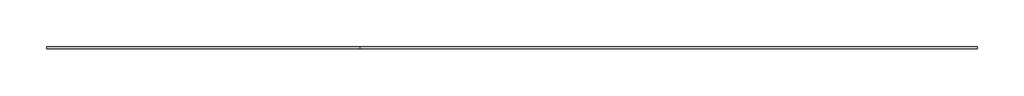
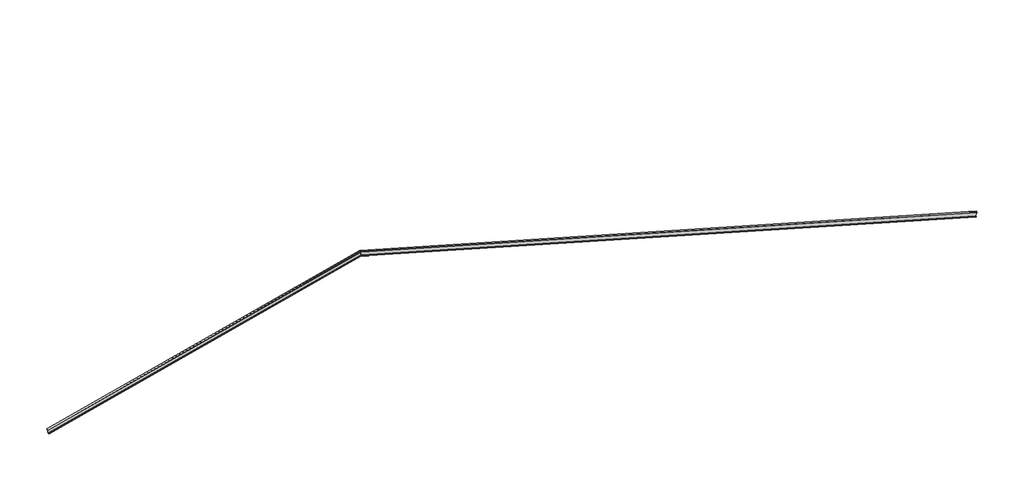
# One storey: 2 beams.
"""IFC4 building model written with IfcOpenShell, lengths in millimetres."""

from ifc_helpers import new_model, si_unit, frame, origin, place, context, project, spatial, polyline, circle_curve, ellipse_curve, element, save
from ifc_brep_helpers import plane_surface, revolved_surface, advanced_brep

model = new_model("IFC4")

# Units and contexts
model_context = context("Model", 3, world=origin())
ifc_project = project(units=[si_unit("LENGTHUNIT", "METRE", prefix="MILLI")], contexts=[model_context])

# Site, building, storey
site = spatial("IfcSite", under=ifc_project)
building = spatial("IfcBuilding", under=site)
storey = spatial("IfcBuildingStorey", under=building, Name="樓層 2", Elevation=4000.0)

# Beams
placement = place(None, origin())
element("IfcBeam", 1, ObjectType="UB-通用樑 : 305x165x40UB", at=placement, inside=storey, context=model_context, shape_type="AdvancedBrep", body=[
    advanced_brep(
    [(-6557.8417513, -1165.9837992, -584.2902645), (-6555.3463468, -1165.9837992, -594.1803078), (-6555.3463468, -1330.9837992, -594.1803078), (-6557.8417513, -1330.9837992, -584.2902645), (-6557.8417513, -1260.3837992, -584.2902645), (-6560.019114, -1251.4837992, -575.6607169), (-6624.8996296, -1251.4837992, -318.5195909), (-6627.0769923, -1260.3837992, -309.8900433), (-6627.0769923, -1330.9837992, -309.8900433), (-6629.5723967, -1330.9837992, -300.0), (-6629.5723967, -1165.9837992, -300.0), (-6627.0769923, -1165.9837992, -309.8900433), (-6627.0769923, -1236.5837992, -309.8900433), (-6624.8996296, -1245.4837992, -318.5195909), (-6560.019114, -1245.4837992, -575.6607169), (-6557.8417513, -1236.5837992, -584.2902645), (14966.1103873, -1236.5837992, 4846.5217334), (14966.1103873, -1165.9837992, 4846.5217334), (14966.2414351, -1245.4837992, 4855.7337272), (14970.1463658, -1245.4837992, 5130.2304403), (14970.2774136, -1236.5837992, 5139.4424341), (14970.2774136, -1165.9837992, 5139.4424341), (14970.4276033, -1165.9837992, 5150.0), (14970.4276033, -1330.9837992, 5150.0), (14970.2774136, -1330.9837992, 5139.4424341), (14970.2774136, -1260.3837992, 5139.4424341), (14970.1463658, -1251.4837992, 5130.2304403), (14966.2414351, -1251.4837992, 4855.7337272), (14966.1103873, -1260.3837992, 4846.5217334), (14966.1103873, -1330.9837992, 4846.5217334), (14965.9601977, -1330.9837992, 4835.9641675), (14965.9601977, -1165.9837992, 4835.9641675)],
    [
        (0, 1),
        (1, 2),
        (2, 3),
        (3, 4),
        (4, 5, circle_curve(frame((-6560.019114, -1260.3837992, -575.6607169), z_axis=(0.9696120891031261, 0.0, 0.24464749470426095), x_axis=(0.0, -1.0, 0.0)), 8.9)),
        (5, 6),
        (6, 7, circle_curve(frame((-6624.8996296, -1260.3837992, -318.5195909), z_axis=(0.9696120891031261, 0.0, 0.24464749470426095), x_axis=(0.0, -1.0, 0.0)), 8.9)),
        (7, 8),
        (8, 9),
        (9, 10),
        (10, 11),
        (11, 12),
        (12, 13, circle_curve(frame((-6624.8996296, -1236.5837992, -318.5195909), z_axis=(0.9696120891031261, 0.0, 0.24464749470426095), x_axis=(0.0, -1.0, 0.0)), 8.9)),
        (13, 14),
        (14, 15, circle_curve(frame((-6560.019114, -1236.5837992, -575.6607169), z_axis=(0.9696120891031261, 0.0, 0.24464749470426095), x_axis=(0.0, -1.0, 0.0)), 8.9)),
        (15, 0),
        (16, 17),
        (17, 0),
        (15, 16),
        (18, 16, ellipse_curve(frame((14966.2414351, -1236.5837992, 4855.7337272), z_axis=(0.9998988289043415, 0.0, -0.014224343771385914), x_axis=(-0.014224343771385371, 0.0, -0.9998988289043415)), 9.2129258, 8.9)),
        (14, 18),
        (19, 18),
        (13, 19),
        (20, 19, ellipse_curve(frame((14970.1463658, -1236.5837992, 5130.2304403), z_axis=(0.9998988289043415, 0.0, -0.014224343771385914), x_axis=(-0.014224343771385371, 0.0, -0.9998988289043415)), 9.2129258, 8.9)),
        (12, 20),
        (21, 20),
        (11, 21),
        (22, 21),
        (10, 22),
        (23, 22),
        (9, 23),
        (24, 23),
        (8, 24),
        (25, 24),
        (7, 25),
        (26, 25, ellipse_curve(frame((14970.1463658, -1260.3837992, 5130.2304403), z_axis=(0.9998988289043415, 0.0, -0.014224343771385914), x_axis=(-0.014224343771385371, 0.0, -0.9998988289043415)), 9.2129258, 8.9)),
        (6, 26),
        (27, 26),
        (5, 27),
        (28, 27, ellipse_curve(frame((14966.2414351, -1260.3837992, 4855.7337272), z_axis=(0.9998988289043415, 0.0, -0.014224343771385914), x_axis=(-0.014224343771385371, 0.0, -0.9998988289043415)), 9.2129258, 8.9)),
        (4, 28),
        (29, 28),
        (3, 29),
        (30, 29),
        (2, 30),
        (31, 30),
        (1, 31),
        (17, 31),
    ],
    [
        plane_surface(frame((-6592.4593718, -1248.4837992, -447.0901539), z_axis=(-0.9696120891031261, 0.0, -0.24464749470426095), x_axis=(-0.24464749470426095, 0.0, 0.9696120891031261))),
        plane_surface(frame((15042.1582487, -1165.9837992, 4865.7097355), z_axis=(-0.24464749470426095, 0.0, 0.9696120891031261), x_axis=(-0.9696120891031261, 0.0, -0.24464749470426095))),
        revolved_surface(polyline([(-6560.019114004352, -1245.4837992, -575.6607169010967), (14968.549845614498, -1245.4837992, 4856.316173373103)]), (15039.980886, -1236.5837992, 4874.3392831), (-0.9696120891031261, 0.0, -0.24464749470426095)),
        plane_surface(frame((15039.980886, -1245.4837992, 4874.3392831), z_axis=(0.0, 1.0, 0.0), x_axis=(-0.9696120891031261, 0.0, -0.24464749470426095))),
        revolved_surface(polyline([(-6624.8996296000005, -1245.4837992, -318.51959089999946), (14972.454776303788, -1245.4837992, 5130.8128865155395)]), (14975.1003704, -1236.5837992, 5131.4804091), (-0.9696120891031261, 0.0, -0.24464749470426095)),
        plane_surface(frame((14972.9230077, -1236.5837992, 5140.1099567), z_axis=(0.24464749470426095, 0.0, -0.9696120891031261), x_axis=(-0.9696120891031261, 0.0, -0.24464749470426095))),
        plane_surface(frame((14972.9230077, -1165.9837992, 5140.1099567), z_axis=(0.0, 1.0, 0.0), x_axis=(-0.9696120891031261, 0.0, -0.24464749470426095))),
        plane_surface(frame((14970.4276033, -1165.9837992, 5150.0), z_axis=(-0.24464749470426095, 0.0, 0.9696120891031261), x_axis=(-0.9696120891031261, 0.0, -0.24464749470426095))),
        plane_surface(frame((14970.4276033, -1330.9837992, 5150.0), z_axis=(0.0, -1.0, 0.0), x_axis=(-0.9696120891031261, 0.0, -0.24464749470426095))),
        plane_surface(frame((14972.9230077, -1330.9837992, 5140.1099567), z_axis=(0.24464749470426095, 0.0, -0.9696120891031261), x_axis=(-0.9696120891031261, 0.0, -0.24464749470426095))),
        revolved_surface(polyline([(-6624.8996296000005, -1269.2837992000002, -318.51959089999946), (14972.454776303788, -1269.2837992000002, 5130.8128865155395)]), (14975.1003704, -1260.3837992, 5131.4804091), (-0.9696120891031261, 0.0, -0.24464749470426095)),
        plane_surface(frame((14975.1003704, -1251.4837992, 5131.4804091), z_axis=(0.0, -1.0, 0.0), x_axis=(-0.9696120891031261, 0.0, -0.24464749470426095))),
        revolved_surface(polyline([(-6560.019114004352, -1269.2837992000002, -575.6607169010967), (14968.549845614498, -1269.2837992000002, 4856.316173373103)]), (15039.980886, -1260.3837992, 4874.3392831), (-0.9696120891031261, 0.0, -0.24464749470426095)),
        plane_surface(frame((15042.1582487, -1260.3837992, 4865.7097355), z_axis=(-0.24464749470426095, 0.0, 0.9696120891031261), x_axis=(-0.9696120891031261, 0.0, -0.24464749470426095))),
        plane_surface(frame((15042.1582487, -1330.9837992, 4865.7097355), z_axis=(0.0, -1.0, 0.0), x_axis=(-0.9696120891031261, 0.0, -0.24464749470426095))),
        plane_surface(frame((15044.6536532, -1330.9837992, 4855.8196922), z_axis=(0.24464749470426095, 0.0, -0.9696120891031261), x_axis=(-0.9696120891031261, 0.0, -0.24464749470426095))),
        plane_surface(frame((15044.6536532, -1165.9837992, 4855.8196922), z_axis=(0.0, 1.0, 0.0), x_axis=(-0.9696120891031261, 0.0, -0.24464749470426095))),
        plane_surface(frame((14970.4276033, -1248.4837992, 5150.0), z_axis=(0.9998988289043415, 0.0, -0.014224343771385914), x_axis=(0.014224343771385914, 0.0, 0.9998988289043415))),
    ],
    [
        (0, [[1, 2, 3, 4, 5, 6, 7, 8, 9, 10, 11, 12, 13, 14, 15, 16]]),
        (1, [[17, 18, -16, 19]]),
        (2, [[20, -19, -15, 21]]),
        (3, [[22, -21, -14, 23]]),
        (4, [[24, -23, -13, 25]]),
        (5, [[26, -25, -12, 27]]),
        (6, [[28, -27, -11, 29]]),
        (7, [[30, -29, -10, 31]]),
        (8, [[32, -31, -9, 33]]),
        (9, [[34, -33, -8, 35]]),
        (10, [[36, -35, -7, 37]]),
        (11, [[38, -37, -6, 39]]),
        (12, [[40, -39, -5, 41]]),
        (13, [[42, -41, -4, 43]]),
        (14, [[44, -43, -3, 45]]),
        (15, [[46, -45, -2, 47]]),
        (16, [[48, -47, -1, -18]]),
        (17, [[-17, -20, -22, -24, -26, -28, -30, -32, -34, -36, -38, -40, -42, -44, -46, -48]]),
    ],
),
])
element("IfcBeam", 2, ObjectType="UB-通用樑 : 305x165x40UB", at=placement, inside=storey, context=model_context, shape_type="AdvancedBrep", body=[
    advanced_brep(
    [(57351.333792, -1165.9837992, -7140.1347862), (57351.333792, -1236.5837992, -7140.1347862), (57353.755748, -1245.4837992, -7131.5706676), (57425.9245963, -1245.4837992, -6876.379176), (57428.3465524, -1236.5837992, -6867.8150574), (57428.3465524, -1165.9837992, -6867.8150574), (57431.1222773, -1165.9837992, -6858.0), (57431.1222773, -1330.9837992, -6858.0), (57428.3465524, -1330.9837992, -6867.8150574), (57428.3465524, -1260.3837992, -6867.8150574), (57425.9245963, -1251.4837992, -6876.379176), (57353.755748, -1251.4837992, -7131.5706676), (57351.333792, -1260.3837992, -7140.1347862), (57351.333792, -1330.9837992, -7140.1347862), (57348.558067, -1330.9837992, -7149.9498436), (57348.558067, -1165.9837992, -7149.9498436), (14966.1103873, -1165.9837992, 4846.5217334), (14966.1103873, -1236.5837992, 4846.5217334), (14966.2414351, -1245.4837992, 4855.7337272), (14970.1463658, -1245.4837992, 5130.2304403), (14970.2774136, -1236.5837992, 5139.4424341), (14970.2774136, -1165.9837992, 5139.4424341), (14970.4276033, -1165.9837992, 5150.0), (14970.4276033, -1330.9837992, 5150.0), (14970.2774136, -1330.9837992, 5139.4424341), (14970.2774136, -1260.3837992, 5139.4424341), (14970.1463658, -1251.4837992, 5130.2304403), (14966.2414351, -1251.4837992, 4855.7337272), (14966.1103873, -1260.3837992, 4846.5217334), (14966.1103873, -1330.9837992, 4846.5217334), (14965.9601977, -1330.9837992, 4835.9641675), (14965.9601977, -1165.9837992, 4835.9641675)],
    [
        (0, 1),
        (1, 2, circle_curve(frame((57353.755748, -1236.5837992, -7131.5706676), z_axis=(-0.9622605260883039, 0.0, 0.27212989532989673), x_axis=(0.0, -1.0, 0.0)), 8.9)),
        (2, 3),
        (3, 4, circle_curve(frame((57425.9245963, -1236.5837992, -6876.379176), z_axis=(-0.9622605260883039, 0.0, 0.27212989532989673), x_axis=(0.0, -1.0, 0.0)), 8.9)),
        (4, 5),
        (5, 6),
        (6, 7),
        (7, 8),
        (8, 9),
        (9, 10, circle_curve(frame((57425.9245963, -1260.3837992, -6876.379176), z_axis=(-0.9622605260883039, 0.0, 0.27212989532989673), x_axis=(0.0, -1.0, 0.0)), 8.9)),
        (10, 11),
        (11, 12, circle_curve(frame((57353.755748, -1260.3837992, -7131.5706676), z_axis=(-0.9622605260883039, 0.0, 0.27212989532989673), x_axis=(0.0, -1.0, 0.0)), 8.9)),
        (12, 13),
        (13, 14),
        (14, 15),
        (15, 0),
        (0, 16),
        (16, 17),
        (17, 1),
        (17, 18, ellipse_curve(frame((14966.2414351, -1236.5837992, 4855.7337272), z_axis=(-0.9998988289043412, 0.0, 0.014224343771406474), x_axis=(0.014224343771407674, 0.0, 0.9998988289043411)), 9.2129258, 8.9)),
        (18, 2),
        (18, 19),
        (19, 3),
        (19, 20, ellipse_curve(frame((14970.1463658, -1236.5837992, 5130.2304403), z_axis=(-0.9998988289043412, 0.0, 0.014224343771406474), x_axis=(0.014224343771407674, 0.0, 0.9998988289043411)), 9.2129258, 8.9)),
        (20, 4),
        (20, 21),
        (21, 5),
        (21, 22),
        (22, 6),
        (22, 23),
        (23, 7),
        (23, 24),
        (24, 8),
        (24, 25),
        (25, 9),
        (25, 26, ellipse_curve(frame((14970.1463658, -1260.3837992, 5130.2304403), z_axis=(-0.9998988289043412, 0.0, 0.014224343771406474), x_axis=(0.014224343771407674, 0.0, 0.9998988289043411)), 9.2129258, 8.9)),
        (26, 10),
        (26, 27),
        (27, 11),
        (27, 28, ellipse_curve(frame((14966.2414351, -1260.3837992, 4855.7337272), z_axis=(-0.9998988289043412, 0.0, 0.014224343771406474), x_axis=(0.014224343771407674, 0.0, 0.9998988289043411)), 9.2129258, 8.9)),
        (28, 12),
        (28, 29),
        (29, 13),
        (29, 30),
        (30, 14),
        (30, 31),
        (31, 15),
        (31, 16),
    ],
    [
        plane_surface(frame((57389.8401722, -1248.4837992, -7003.9749218), z_axis=(0.9622605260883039, 0.0, -0.27212989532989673), x_axis=(0.27212989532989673, 0.0, 0.9622605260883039))),
        plane_surface(frame((57351.333792, -1165.9837992, -7140.1347862), z_axis=(0.27212989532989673, 0.0, 0.9622605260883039), x_axis=(-0.9622605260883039, 0.0, 0.27212989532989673))),
        revolved_surface(polyline([(14963.950526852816, -1245.4837992, 4856.3816022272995), (57353.75574804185, -1245.4837992, -7131.5706676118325)]), (57353.755748, -1236.5837992, -7131.5706676), (-0.9622605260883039, 0.0, 0.27212989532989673)),
        plane_surface(frame((57353.755748, -1245.4837992, -7131.5706676), z_axis=(0.0, 1.0, 0.0), x_axis=(-0.9622605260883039, 0.0, 0.27212989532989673))),
        revolved_surface(polyline([(14967.855457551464, -1245.4837992, 5130.878315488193), (57425.92459635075, -1245.4837992, -6876.379176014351)]), (57425.9245963, -1236.5837992, -6876.379176), (-0.9622605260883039, 0.0, 0.27212989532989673)),
        plane_surface(frame((57428.3465524, -1236.5837992, -6867.8150574), z_axis=(-0.27212989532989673, 0.0, -0.9622605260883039), x_axis=(-0.9622605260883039, 0.0, 0.27212989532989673))),
        plane_surface(frame((57428.3465524, -1165.9837992, -6867.8150574), z_axis=(0.0, 1.0, 0.0), x_axis=(-0.9622605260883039, 0.0, 0.27212989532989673))),
        plane_surface(frame((57431.1222773, -1165.9837992, -6858.0), z_axis=(0.27212989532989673, 0.0, 0.9622605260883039), x_axis=(-0.9622605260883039, 0.0, 0.27212989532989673))),
        plane_surface(frame((57431.1222773, -1330.9837992, -6858.0), z_axis=(0.0, -1.0, 0.0), x_axis=(-0.9622605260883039, 0.0, 0.27212989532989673))),
        plane_surface(frame((57428.3465524, -1330.9837992, -6867.8150574), z_axis=(-0.27212989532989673, 0.0, -0.9622605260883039), x_axis=(-0.9622605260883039, 0.0, 0.27212989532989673))),
        revolved_surface(polyline([(14967.855457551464, -1269.2837992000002, 5130.878315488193), (57425.92459635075, -1269.2837992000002, -6876.379176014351)]), (57425.9245963, -1260.3837992, -6876.379176), (-0.9622605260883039, 0.0, 0.27212989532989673)),
        plane_surface(frame((57425.9245963, -1251.4837992, -6876.379176), z_axis=(0.0, -1.0, 0.0), x_axis=(-0.9622605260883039, 0.0, 0.27212989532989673))),
        revolved_surface(polyline([(14963.950526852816, -1269.2837992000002, 4856.3816022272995), (57353.75574804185, -1269.2837992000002, -7131.5706676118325)]), (57353.755748, -1260.3837992, -7131.5706676), (-0.9622605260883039, 0.0, 0.27212989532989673)),
        plane_surface(frame((57351.333792, -1260.3837992, -7140.1347862), z_axis=(0.27212989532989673, 0.0, 0.9622605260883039), x_axis=(-0.9622605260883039, 0.0, 0.27212989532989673))),
        plane_surface(frame((57351.333792, -1330.9837992, -7140.1347862), z_axis=(0.0, -1.0, 0.0), x_axis=(-0.9622605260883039, 0.0, 0.27212989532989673))),
        plane_surface(frame((57348.558067, -1330.9837992, -7149.9498436), z_axis=(-0.27212989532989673, 0.0, -0.9622605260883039), x_axis=(-0.9622605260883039, 0.0, 0.27212989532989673))),
        plane_surface(frame((57348.558067, -1165.9837992, -7149.9498436), z_axis=(0.0, 1.0, 0.0), x_axis=(-0.9622605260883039, 0.0, 0.27212989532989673))),
        plane_surface(frame((14970.4276033, -1248.4837992, 5150.0), z_axis=(-0.9998988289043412, 0.0, 0.014224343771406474), x_axis=(0.014224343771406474, 0.0, 0.9998988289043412))),
    ],
    [
        (0, [[1, 2, 3, 4, 5, 6, 7, 8, 9, 10, 11, 12, 13, 14, 15, 16]]),
        (1, [[-1, 17, 18, 19]]),
        (2, [[-2, -19, 20, 21]]),
        (3, [[-3, -21, 22, 23]]),
        (4, [[-4, -23, 24, 25]]),
        (5, [[-5, -25, 26, 27]]),
        (6, [[-6, -27, 28, 29]]),
        (7, [[-7, -29, 30, 31]]),
        (8, [[-8, -31, 32, 33]]),
        (9, [[-9, -33, 34, 35]]),
        (10, [[-10, -35, 36, 37]]),
        (11, [[-11, -37, 38, 39]]),
        (12, [[-12, -39, 40, 41]]),
        (13, [[-13, -41, 42, 43]]),
        (14, [[-14, -43, 44, 45]]),
        (15, [[-15, -45, 46, 47]]),
        (16, [[-16, -47, 48, -17]]),
        (17, [[-48, -46, -44, -42, -40, -38, -36, -34, -32, -30, -28, -26, -24, -22, -20, -18]]),
    ],
),
])

save(model, "model.ifc")
